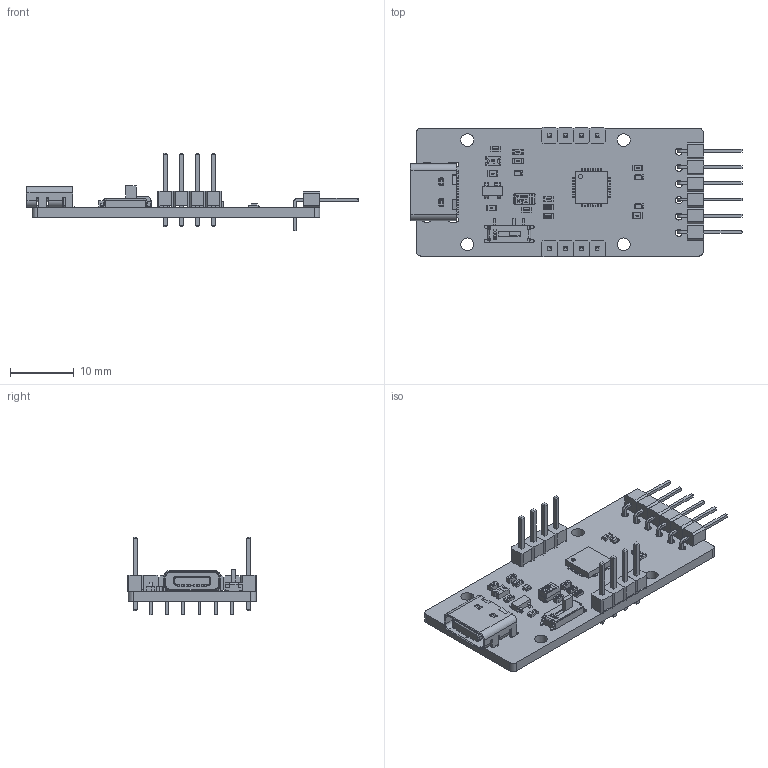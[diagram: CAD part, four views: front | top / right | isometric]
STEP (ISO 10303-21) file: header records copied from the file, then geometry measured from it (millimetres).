
FILE_DESCRIPTION(/* description */ (''),/* implementation_level */ '2;1');
FILE_NAME(/* name */ 'SG-C2102-01C-V1.1_step.prt.stp',/* time_stamp */ '2025-08-19T11:29:44+08:00',/* author */ (''),/* organization */ (''),/* preprocessor_version */ 'ST-DEVELOPER v16.7',/* originating_system */ 'SIEMENS PLM Software NX 12.0',/* authorisation */ '');
FILE_SCHEMA (('AUTOMOTIVE_DESIGN { 1 0 10303 214 3 1 1 1 }'));
Products named in the file (65): Open_CASCADE_STEP_translator_6.8_1.2.1; Pin_Shape; Thermal_Shape; Open_CASCADE_STEP_translator_6.8_1.1; C_060349807; LOGO_46743; User_Library-LED_0603_R_Pad; User_Library-LED_0603_R_Pocket001; User_Library-LED_0603_R_Fillet; User_Library-LED_0603_R_Pad004; User_Library-LED_0603_R_Pocket002; Open CASCADE STEP translator 6.8 3.12.1.11; Open CASCADE STEP translator 6.8 3.12.1.10; Open CASCADE STEP translator 6.8 3.12.1.9; Open CASCADE STEP translator 6.8 3.12.1.8; Open CASCADE STEP translator 6.8 3.12.1.7; Open CASCADE STEP translator 6.8 3.12.1.6; Open CASCADE STEP translator 6.8 3.12.1.5; Open CASCADE STEP translator 6.8 3.12.1.4; Open CASCADE STEP translator 6.8 3.12.1.3; Open CASCADE STEP translator 6.8 3.12.1.2; Open CASCADE STEP translator 6.8 3.12.1.1; Open CASCADE STEP translator 6.8 3.8.1.2; Open CASCADE STEP translator 6.8 3.8.1.1; LOGO_; R_06039593; 2_54PIN_single; SOT_143; F0805; CAP_TAN_C3216_1206; User_Library-R0603-2; Open CASCADE STEP translator 6.8 3.1.1; paizhen1; P3; P2; C_0603; C1; C5; C2; C4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
Assembly tree (108 placements, depth 6):
  SG-C2102-01C-V1.1_step
    Board
      Open CASCADE STEP translator 6.8 3.1.1
    U1
      CP2102
        6436355536
          Open_CASCADE_STEP_translator_6.8_1.1
          Body
            Open_CASCADE_STEP_translator_6.8_1.2.1
          Thermal_Shape
          Pin_Shape  x28
    R7
      User_Library-R0603-2
    R6
      User_Library-R0603-2
    R2
      R_0603
        R_06039593
        LOGO_
    R1
      R_0603
        R_06039593
        LOGO_
    C3
      CAP_TAN_C3216_1206
    SW1
      ss-3292s-l2-b
        Open CASCADE STEP translator 6.8 3.8.1.1
        Open CASCADE STEP translator 6.8 3.8.1.2
    R5
      R_0603
        R_06039593
        LOGO_
    R4
      R_0603
        R_06039593
        LOGO_
    R3
      R_0603
        R_06039593
        LOGO_
    J1
      TYPE-C-16P
        Open CASCADE STEP translator 6.8 3.12.1.1
        Open CASCADE STEP translator 6.8 3.12.1.2
        Open CASCADE STEP translator 6.8 3.12.1.3
        Open CASCADE STEP translator 6.8 3.12.1.4
        Open CASCADE STEP translator 6.8 3.12.1.5
        Open CASCADE STEP translator 6.8 3.12.1.6
        Open CASCADE STEP translator 6.8 3.12.1.7
        Open CASCADE STEP translator 6.8 3.12.1.8
        Open CASCADE STEP translator 6.8 3.12.1.9
        Open CASCADE STEP translator 6.8 3.12.1.10
        Open CASCADE STEP translator 6.8 3.12.1.11
    F1
      F0805
    D4
      User_Library-LED_0603_R
        User_Library-LED_0603_R_Pocket002
        User_Library-LED_0603_R_Pad004
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Bounding box: 51.96 x 20.32 x 12.17 mm (x, y, z)
Volume: 1849.8 mm3; surface area: 3872.1 mm2
Topology: 270 solids, 270 shells, 3688 faces, 8806 edges, 5730 vertices
Faces by surface type: plane 2354, bspline 778, cylinder 470, sphere 50, torus 28, cone 8
Full cylindrical faces by diameter (mm): 0.7 x2, 1 x8, 1.1 x8, 2 x4
Entity records: 74494 total; most frequent: CARTESIAN_POINT 28726, ORIENTED_EDGE 8452, DIRECTION 7626, EDGE_CURVE 4226, LINE 3126, VECTOR 3126, VERTEX_POINT 2768, AXIS2_PLACEMENT_3D 2250
